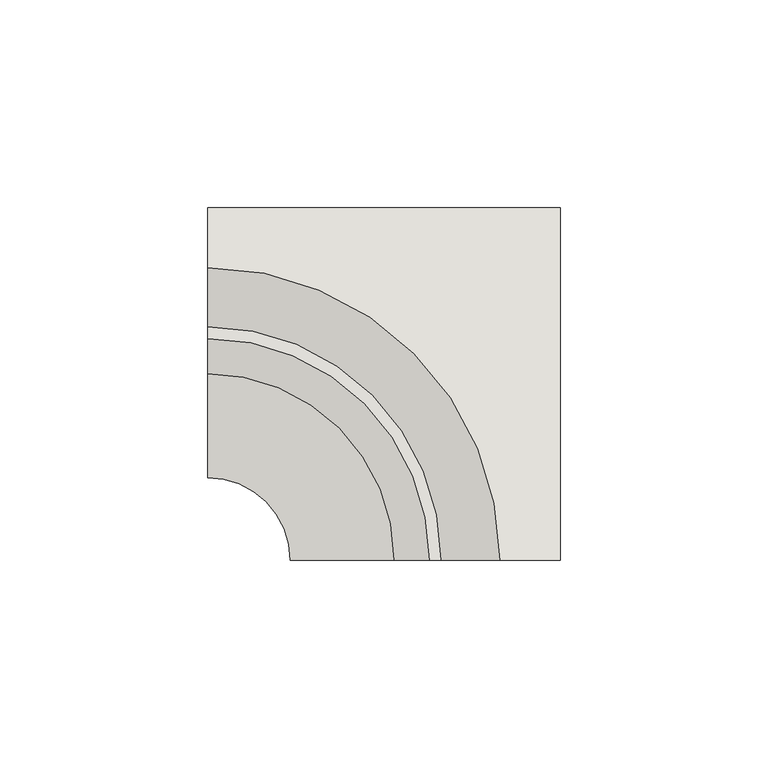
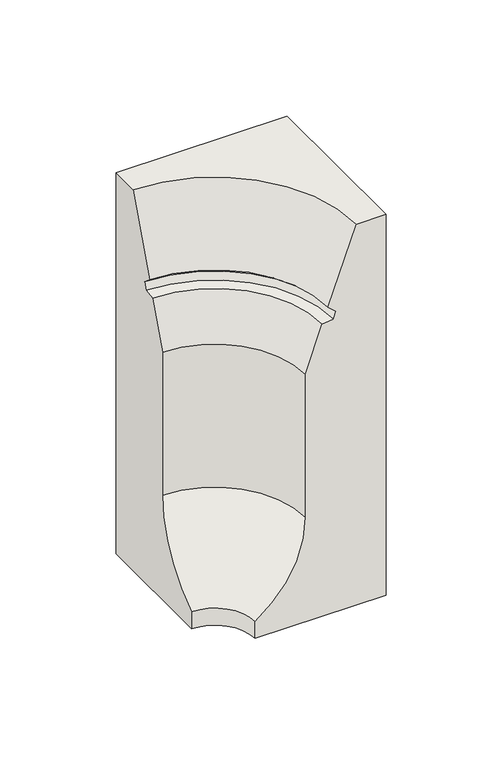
"""IFC4 building model written with IfcOpenShell, lengths in millimetres: wall geometry, GM_PC_UN_ACO kerb PB inside corner_ACO : PB H200 standard."""

import ifcopenshell
import ifcopenshell.guid

model = None  # the IFC model being written
_history = None  # IfcOwnerHistory: only IFC2X3 demands one
_inside = {}  # id of a spatial element -> (the spatial element, [elements in it])
_under = {}  # id of a project, library or spatial element -> (it, [spatial elements below it])
_declared = {}  # id of a project -> (the project, [libraries it declares])
_typed = {}  # id of a type object -> (the type object, [elements of that type])
_made_of = {}  # id of a material, layer set ... -> (it, [elements and type objects made of it])


def new_model(schema):
    """Start an empty IFC model of exactly this schema.

    Asked for "IFC4X3", IfcOpenShell would pick the latest addendum, in which some entities
    have other attributes; the version numbers below select the first issue.
    IFC2X3 requires an IfcOwnerHistory on every rooted entity: one is made here for all.
    """
    global model, _history
    if schema == "IFC4X3":
        model = ifcopenshell.file(schema_version=(4, 3, 0, 0))
    else:
        model = ifcopenshell.file(schema=schema)
    _inside.clear()
    _under.clear()
    _declared.clear()
    _typed.clear()
    _made_of.clear()
    _history = None
    if model.schema == "IFC2X3":
        org = make("IfcOrganization", Name="unknown")
        user = make(
            "IfcPersonAndOrganization",
            ThePerson=make("IfcPerson", FamilyName="unknown"),
            TheOrganization=org,
        )
        app = make(
            "IfcApplication",
            ApplicationDeveloper=org,
            Version="unknown",
            ApplicationFullName="unknown",
            ApplicationIdentifier="unknown",
        )
        _history = make(
            "IfcOwnerHistory",
            OwningUser=user,
            OwningApplication=app,
            ChangeAction="ADDED",
            CreationDate=0,
        )
    return model


def make(cls, **values):
    """One entity of the class cls with the attributes given. An attribute that is None is left unset."""
    return model.create_entity(
        cls, **{name: value for name, value in values.items() if value is not None}
    )


def rooted(cls, **values):
    """An entity with a GlobalId (a new one), such as an element, a storey or a relation."""
    return make(cls, GlobalId=ifcopenshell.guid.new(), OwnerHistory=_history, **values)


def si_unit(unit_type, name, prefix=None):
    """IfcSIUnit, for example si_unit("LENGTHUNIT", "METRE", prefix="MILLI")."""
    return make("IfcSIUnit", UnitType=unit_type, Prefix=prefix, Name=name)


def assignment(units):
    """IfcUnitAssignment: the units of a project."""
    return None if units is None else make("IfcUnitAssignment", Units=units)


def point(xyz):
    """IfcCartesianPoint."""
    return None if xyz is None else make("IfcCartesianPoint", Coordinates=xyz)


def direction(xyz):
    """IfcDirection."""
    return None if xyz is None else make("IfcDirection", DirectionRatios=xyz)


def frame(location, z_axis=None, x_axis=None):
    """IfcAxis2Placement3D, a coordinate frame: its origin and axes. An axis left out is left unset."""
    return make(
        "IfcAxis2Placement3D",
        Location=point(location),
        Axis=direction(z_axis),
        RefDirection=direction(x_axis),
    )


def origin():
    """The frame at (0, 0, 0) with its axes left unset."""
    return frame((0.0, 0.0, 0.0))


def place(relative_to, where):
    """IfcLocalPlacement: puts the frame where relative to a parent placement (None: the world)."""
    return make(
        "IfcLocalPlacement", PlacementRelTo=relative_to, RelativePlacement=where
    )


def context(
    kind, dimensions, precision=None, world=None, true_north=None, identifier=None
):
    """IfcGeometricRepresentationContext, for example the 3D "Model" context."""
    return make(
        "IfcGeometricRepresentationContext",
        ContextIdentifier=identifier,
        ContextType=kind,
        CoordinateSpaceDimension=dimensions,
        Precision=precision,
        WorldCoordinateSystem=world,
        TrueNorth=true_north,
    )


def project(units=None, contexts=None):
    """IfcProject with its units and contexts."""
    return rooted(
        "IfcProject",
        Name="project",
        RepresentationContexts=contexts,
        UnitsInContext=assignment(units),
    )


def spatial(cls, under=None, at=None, **own):
    """A site, building, storey or space (cls), placed at a placement, below another one or the project."""
    s = rooted(cls, ObjectPlacement=at, **own)
    if under is not None:
        _under.setdefault(under.id(), (under, []))[1].append(s)
    return s


def polyline(points):
    """IfcPolyline through the points."""
    return make("IfcPolyline", Points=[point(p) for p in points])


def circle_curve(where, radius):
    """IfcCircle in the frame where."""
    return make("IfcCircle", Position=where, Radius=radius)


def ellipse_curve(where, semi_axis1, semi_axis2):
    """IfcEllipse in the frame where."""
    return make(
        "IfcEllipse", Position=where, SemiAxis1=semi_axis1, SemiAxis2=semi_axis2
    )


def trimmed(basis, trim1, trim2, sense, master):
    """IfcTrimmedCurve: the piece of a basis curve between two trims."""
    return make(
        "IfcTrimmedCurve",
        BasisCurve=basis,
        Trim1=trim1,
        Trim2=trim2,
        SenseAgreement=sense,
        MasterRepresentation=master,
    )


def shape(context_of_items, identifier, shape_type, items):
    """IfcShapeRepresentation: the items that make up one representation, for example the "Body"."""
    return make(
        "IfcShapeRepresentation",
        ContextOfItems=context_of_items,
        RepresentationIdentifier=identifier,
        RepresentationType=shape_type,
        Items=items,
    )


def source(mapping_origin, context_of_items, identifier, shape_type, items):
    """IfcRepresentationMap: a shape defined once, which mapped items show again and again."""
    return make(
        "IfcRepresentationMap",
        MappingOrigin=mapping_origin,
        MappedRepresentation=shape(context_of_items, identifier, shape_type, items),
    )


def transform(
    local_origin,
    x_axis=None,
    y_axis=None,
    z_axis=None,
    scale=None,
    scale2=None,
    scale3=None,
    uniform=True,
):
    """IfcCartesianTransformationOperator3D, or its non-uniform kind. x_axis, y_axis, z_axis: its Axis1, 2, 3."""
    if uniform:
        return make(
            "IfcCartesianTransformationOperator3D",
            Axis1=direction(x_axis),
            Axis2=direction(y_axis),
            LocalOrigin=point(local_origin),
            Scale=scale,
            Axis3=direction(z_axis),
        )
    return make(
        "IfcCartesianTransformationOperator3DnonUniform",
        Axis1=direction(x_axis),
        Axis2=direction(y_axis),
        LocalOrigin=point(local_origin),
        Scale=scale,
        Axis3=direction(z_axis),
        Scale2=scale2,
        Scale3=scale3,
    )


def mapped(mapping_source, mapping_target):
    """IfcMappedItem: shows the shape of a source again, moved by a transform."""
    return make(
        "IfcMappedItem", MappingSource=mapping_source, MappingTarget=mapping_target
    )


def made_of(thing, what):
    """Note that an element or type object is made of a material, layer set ...; save() writes the relation."""
    if what is not None:
        _made_of.setdefault(what.id(), (what, []))[1].append(thing)
    return thing


def element(
    cls,
    number,
    at=None,
    inside=None,
    cuts=None,
    type_object=None,
    material=None,
    context=None,
    identifier="Body",
    shape_type=None,
    held_by="IfcProductDefinitionShape",
    body=None,
    shapes=None,
    **own,
):
    """One element of the class cls, such as IfcWall. Its Tag is "e" and its number.

    at: its placement. inside: the storey or other place that contains it. cuts: it is an
    opening in that element (IfcRelVoidsElement). A single representation is given by context,
    identifier, shape_type and body (its items); several are given by shapes. held_by: the class
    of the entity that holds the representations. save() writes the other relations.
    """
    e = rooted(cls, Tag="e%d" % number, ObjectPlacement=at, **own)
    if body is not None:
        shapes = [shape(context, identifier, shape_type, body)]
    if shapes is not None:
        e.Representation = make(held_by, Representations=shapes)
    if inside is not None:
        _inside.setdefault(inside.id(), (inside, []))[1].append(e)
    if cuts is not None:
        rooted(
            "IfcRelVoidsElement", RelatingBuildingElement=cuts, RelatedOpeningElement=e
        )
    if type_object is not None:
        _typed.setdefault(type_object.id(), (type_object, []))[1].append(e)
    return made_of(e, material)


def aggregate(whole, parts):
    """IfcRelAggregates: a whole, such as a stair, and the parts it consists of."""
    return rooted("IfcRelAggregates", RelatingObject=whole, RelatedObjects=parts)


def save(model, path):
    """Write the relations noted so far, then the file.

    IfcRelAggregates (storeys below a building ...), IfcRelContainedInSpatialStructure (elements
    in a storey), IfcRelDefinesByType, IfcRelAssociatesMaterial and IfcRelDeclares: one each for
    every whole, place, type object, material and project.
    """
    for whole, parts in _under.values():
        aggregate(whole, parts)
    for where, things in _inside.values():
        rooted(
            "IfcRelContainedInSpatialStructure",
            RelatedElements=things,
            RelatingStructure=where,
        )
    for kind, things in _typed.values():
        rooted("IfcRelDefinesByType", RelatedObjects=things, RelatingType=kind)
    for what, things in _made_of.values():
        rooted("IfcRelAssociatesMaterial", RelatedObjects=things, RelatingMaterial=what)
    for by, libraries in _declared.values():
        rooted("IfcRelDeclares", RelatingContext=by, RelatedDefinitions=libraries)
    model.write(path)


def plane_surface(at):
    """IfcPlane: the flat surface through the origin of the frame at, square to its z axis."""
    return make("IfcPlane", Position=at)


def revolved_surface(curve, axis_point, axis_direction):
    """IfcSurfaceOfRevolution: the curve turned about the line through axis_point along axis_direction."""
    return make(
        "IfcSurfaceOfRevolution",
        SweptCurve=make("IfcArbitraryOpenProfileDef", ProfileType="CURVE", Curve=curve),
        AxisPosition=make("IfcAxis1Placement", Location=point(axis_point), Axis=direction(axis_direction)),
    )


def advanced_brep(points, edges, surfaces, faces):
    """IfcAdvancedBrep: a solid bounded by faces that lie on surfaces and meet in shared edges.

    An edge is (start, end): straight between two places in points (the first is 0);
    or (start, end, curve); or (start, end, curve, False) where it runs against its curve.
    A face is (place in surfaces, loops), or (place, loops, False) where it looks against
    its surface's normal. A loop lists edges by number (the first is 1), with a minus sign
    where the edge is run from its end to its start. The first loop is the outer one.
    """
    corners = [point(p) for p in points]
    vertices = [make("IfcVertexPoint", VertexGeometry=c) for c in corners]
    made = []
    for start, end, *more in edges:
        made.append(
            make(
                "IfcEdgeCurve",
                EdgeStart=vertices[start],
                EdgeEnd=vertices[end],
                EdgeGeometry=more[0] if more else make("IfcPolyline", Points=[corners[start], corners[end]]),
                SameSense=more[1] if len(more) > 1 else True,
            )
        )
    hull = []
    for where, loops, *sense in faces:
        bounds = []
        for j, loop in enumerate(loops):
            ring = [make("IfcOrientedEdge", EdgeElement=made[abs(k) - 1], Orientation=k > 0) for k in loop]
            bounds.append(
                make(
                    "IfcFaceOuterBound" if j == 0 else "IfcFaceBound",
                    Bound=make("IfcEdgeLoop", EdgeList=ring),
                    Orientation=True,
                )
            )
        hull.append(make("IfcAdvancedFace", Bounds=bounds, FaceSurface=surfaces[where], SameSense=sense[0] if sense else True))
    return make("IfcAdvancedBrep", Outer=make("IfcClosedShell", CfsFaces=hull))


def wall_e165e4ae(model_context):
    return source(origin(), model_context, "Body", "AdvancedBrep", [
        advanced_brep(
        [(0.0, 0.0, 200.0), (-85.0, 0.0, 200.0), (-85.0, -14.5292951, 200.0), (-14.5292951, -85.0, 200.0), (0.0, -85.0, 200.0), (0.0, 0.0, 0.0), (0.0, -85.0, 0.0), (-65.0223078, -85.0, 0.0), (-85.0, -65.0223078, 0.0), (-85.0, 0.0, 0.0), (-85.0, -40.0039527, 130.0277035), (-85.0, -31.5963262, 153.428955), (-85.0, -26.03433, 154.0469313), (-85.0, -24.6373807, 157.7298564), (-85.0, -28.690316, 161.1592348), (-85.0, -65.0223078, 8.9062534), (-85.0, -40.0039527, 54.9895287), (-40.0039527, -85.0, 130.0277035), (-40.0039527, -85.0, 54.9895287), (-65.0223078, -85.0, 8.9062534), (-28.690316, -85.0, 161.1592348), (-24.6373807, -85.0, 157.7298564), (-26.03433, -85.0, 154.0469313), (-31.5963262, -85.0, 153.428955)],
        [
            (0, 1),
            (1, 2),
            (2, 3, circle_curve(frame((-85.0, -85.0, 200.0), z_axis=(0.0, 0.0, -1.0), x_axis=(0.0, 1.0, 0.0)), 70.4707049)),
            (3, 4),
            (4, 0),
            (5, 6),
            (6, 7),
            (7, 8, circle_curve(frame((-85.0, -85.0, 0.0), z_axis=(0.0, 0.0, 1.0), x_axis=(0.0, 1.0, 0.0)), 19.9776922)),
            (8, 9),
            (9, 5),
            (0, 5),
            (9, 1),
            (4, 6),
            (10, 11),
            (11, 12),
            (12, 13),
            (13, 14),
            (14, 2),
            (8, 15),
            (15, 16, circle_curve(frame((-85.0, -94.2239515, 54.592465), z_axis=(1.0, 0.0, 0.0), x_axis=(0.0, 0.5385625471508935, -0.8425855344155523)), 54.2214526)),
            (16, 10),
            (17, 18),
            (18, 19, circle_curve(frame((-94.2239515, -85.0, 54.592465), z_axis=(0.0, 1.0, 0.0), x_axis=(0.5385625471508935, 0.0, -0.8425855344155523)), 54.2214526)),
            (19, 7),
            (3, 20),
            (20, 21),
            (21, 22),
            (22, 23),
            (23, 17),
            (10, 17, circle_curve(frame((-85.0, -85.0, 130.0277035), z_axis=(0.0, 0.0, -1.0), x_axis=(0.0, 1.0, 0.0)), 44.9960473)),
            (23, 11, circle_curve(frame((-85.0, -85.0, 153.428955), z_axis=(0.0, 0.0, 1.0), x_axis=(0.0, 1.0, 0.0)), 53.4036738)),
            (22, 12, circle_curve(frame((-85.0, -85.0, 154.0469313), z_axis=(0.0, 0.0, 1.0), x_axis=(0.0, 1.0, 0.0)), 58.96567)),
            (21, 13, circle_curve(frame((-85.0, -85.0, 157.7298564), z_axis=(0.0, 0.0, 1.0), x_axis=(0.0, 1.0, 0.0)), 60.3626193)),
            (20, 14, circle_curve(frame((-85.0, -85.0, 161.1592348), z_axis=(0.0, 0.0, 1.0), x_axis=(0.0, 1.0, 0.0)), 56.309684)),
            (16, 18, circle_curve(frame((-85.0, -85.0, 54.9895287), z_axis=(0.0, 0.0, -1.0), x_axis=(0.0, 1.0, 0.0)), 44.9960473)),
            (19, 15, circle_curve(frame((-85.0, -85.0, 8.9062534), z_axis=(0.0, 0.0, 1.0), x_axis=(0.0, 1.0, 0.0)), 19.9776922)),
        ],
        [
            plane_surface(frame((-85.0, 0.0, 200.0), z_axis=(0.0, 0.0, 1.0), x_axis=(-1.0, 0.0, 0.0))),
            plane_surface(frame((-85.0, 0.0, 0.0), z_axis=(0.0, 0.0, -1.0), x_axis=(1.0, 0.0, 0.0))),
            plane_surface(frame((0.0, 0.0, 200.0), z_axis=(0.0, 1.0, 0.0), x_axis=(0.0, 0.0, -1.0))),
            plane_surface(frame((0.0, -85.0, 200.0), z_axis=(1.0, 0.0, 0.0), x_axis=(0.0, 0.0, -1.0))),
            plane_surface(frame((-85.0, 0.0, 0.0), z_axis=(-1.0, 0.0, 0.0), x_axis=(0.0, 0.0, 1.0))),
            plane_surface(frame((0.0, -85.0, 0.0), z_axis=(0.0, -1.0, 0.0), x_axis=(0.0, 0.0, 1.0))),
            revolved_surface(polyline([(-85.0, -40.0039527, 130.0277035), (-85.0, -31.5963262, 153.428955)]), (-85.0, -85.0, 0.0), (0.0, 0.0, -1.0)),
            revolved_surface(polyline([(-85.0, -31.5963262, 153.428955), (-85.0, -26.03433, 154.0469313)]), (-85.0, -85.0, 0.0), (0.0, 0.0, -1.0)),
            revolved_surface(polyline([(-85.0, -26.03433, 154.0469313), (-85.0, -24.6373807, 157.7298564)]), (-85.0, -85.0, 0.0), (0.0, 0.0, -1.0)),
            revolved_surface(polyline([(-85.0, -24.6373807, 157.7298564), (-85.0, -28.690316, 161.1592348)]), (-85.0, -85.0, 0.0), (0.0, 0.0, -1.0)),
            revolved_surface(polyline([(-85.0, -28.690316, 161.1592348), (-85.0, -14.5292951, 200.0197419)]), (-85.0, -85.0, 0.0), (0.0, 0.0, -1.0)),
            revolved_surface(polyline([(-85.0, -40.0039527, 54.9895287), (-85.0, -40.0039527, 130.0277035)]), (-85.0, -85.0, 0.0), (0.0, 0.0, -1.0)),
            revolved_surface(polyline([(-85.0, -65.0223078, 0.0), (-85.0, -65.0223078, 8.9062534)]), (-85.0, -85.0, 0.0), (0.0, 0.0, -1.0)),
            revolved_surface(trimmed(ellipse_curve(frame((-85.0, -94.2239515, 54.592465), z_axis=(1.0, 0.0, 0.0), x_axis=(0.0, 0.5385625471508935, -0.8425855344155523)), 54.2214526, 54.2214526), [point((-85.0, -65.0223078, 8.9062534))], [point((-85.0, -40.0039527, 54.9895287))], True, "CARTESIAN"), (-85.0, -85.0, 0.0), (0.0, 0.0, -1.0)),
        ],
        [
            (0, [[1, 2, 3, 4, 5]]),
            (1, [[6, 7, 8, 9, 10]]),
            (2, [[-1, 11, -10, 12]]),
            (3, [[-5, 13, -6, -11]]),
            (4, [[14, 15, 16, 17, 18, -2, -12, -9, 19, 20, 21]]),
            (5, [[22, 23, 24, -7, -13, -4, 25, 26, 27, 28, 29]]),
            (6, [[-14, 30, -29, 31]]),
            (7, [[-15, -31, -28, 32]]),
            (8, [[-16, -32, -27, 33]]),
            (9, [[-17, -33, -26, 34]]),
            (10, [[-18, -34, -25, -3]]),
            (11, [[-21, 35, -22, -30]]),
            (12, [[-19, -8, -24, 36]]),
            (13, [[-20, -36, -23, -35]]),
        ],
    ),
    ])


if __name__ == "__main__":
    model = new_model("IFC4")
    model_context = context("Model", 3, world=origin())
    ifc_project = project(units=[si_unit("LENGTHUNIT", "METRE", prefix="MILLI")], contexts=[model_context])
    site = spatial("IfcSite", under=ifc_project)
    building = spatial("IfcBuilding", under=site)
    placement = place(None, origin())
    wall_shape = wall_e165e4ae(model_context)
    element("IfcWall", 1, ObjectType="GM_PC_UN_ACO kerb PB inside corner_ACO : PB H200 standard", at=placement, inside=building, context=model_context, shape_type="MappedRepresentation", body=[
        mapped(wall_shape, transform((0.0, 0.0, 0.0), x_axis=(1.0, 0.0, 0.0), y_axis=(0.0, 1.0, 0.0), z_axis=(0.0, 0.0, 1.0))),
    ])
    save(model, "model.ifc")
